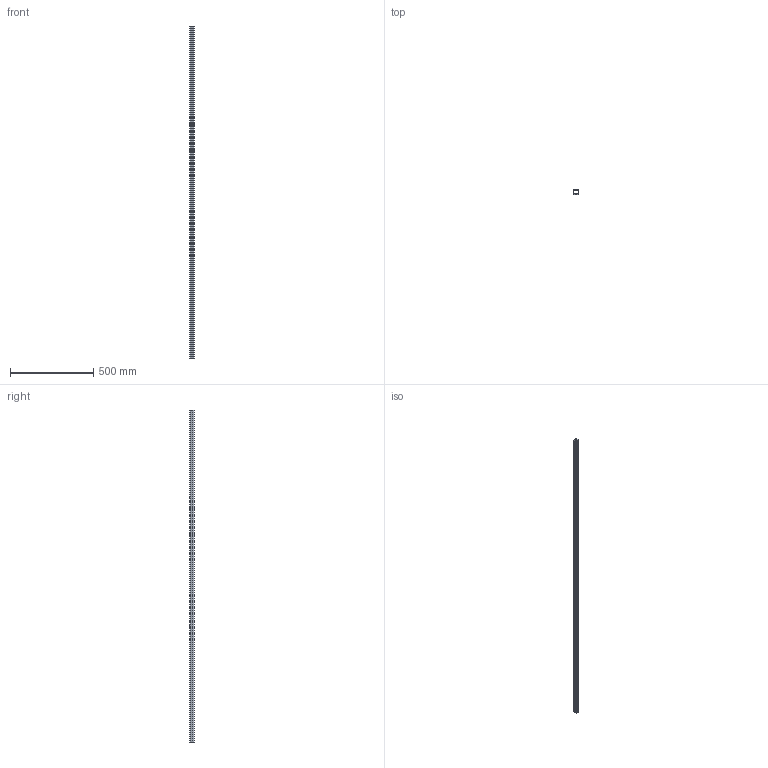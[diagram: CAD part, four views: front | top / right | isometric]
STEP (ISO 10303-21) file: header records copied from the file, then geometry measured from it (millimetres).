
FILE_DESCRIPTION(/* description */ ('Profilrohr Nr.0 - 2m'),/* implementation_level */ '2;1');
FILE_NAME(/* name */ 'Q:\sge-ma\Produktmanagement-STB\STB\Workspace\TraceParts\Laufrohr\011337020.stp',/* time_stamp */ '2018-11-14T14:59:47+01:00',/* author */ ('avschreier'),/* organization */ (''),/* preprocessor_version */ 'ST-DEVELOPER v16.5',/* originating_system */ 'Autodesk Inventor 2017',/* authorisation */ '');
FILE_SCHEMA (('AUTOMOTIVE_DESIGN { 1 0 10303 214 3 1 1 }'));
Length unit declared in the file: millimetre
Products named in the file (1): 011337020
Bounding box: 29.5 x 27.5 x 2000 mm (x, y, z)
Volume: 315039.3 mm3; surface area: 367362 mm2
Topology: 1 solids, 1 shells, 40 faces, 108 edges, 72 vertices
Faces by surface type: plane 28, cylinder 12
Entity records: 1286 total; most frequent: CARTESIAN_POINT 221, ORIENTED_EDGE 216, DIRECTION 214, EDGE_CURVE 108, LINE 84, VECTOR 84, VERTEX_POINT 72, AXIS2_PLACEMENT_3D 65
